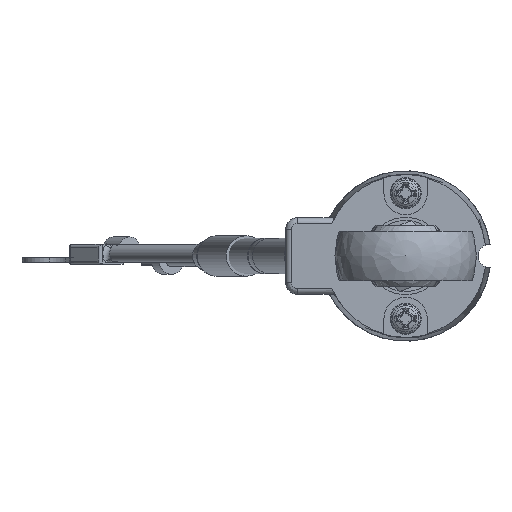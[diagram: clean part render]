
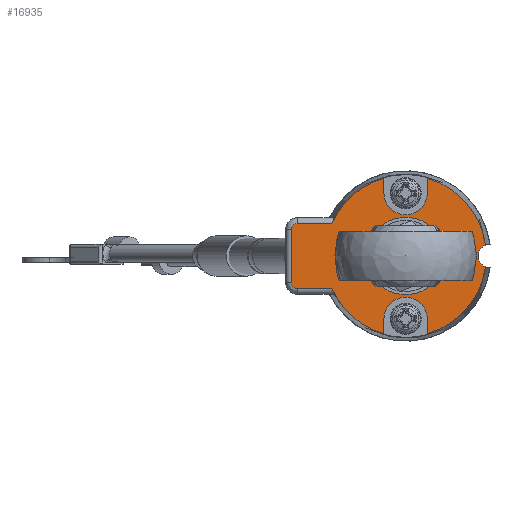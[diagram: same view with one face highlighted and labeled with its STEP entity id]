
A CAD part, left-side view. The second image highlights one B-rep face of the part: STEP entity #16935.
In plain terms, the highlighted planar face has unit normal (-1, 0, 0).
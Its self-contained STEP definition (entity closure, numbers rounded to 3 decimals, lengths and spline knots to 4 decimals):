
#1690=ELLIPSE('',#18058,0.03,0.03);
#1691=ELLIPSE('',#18062,0.03,0.03);
#1706=FACE_BOUND('',#2909,.T.);
#1841=PLANE('',#18064);
#2139=FACE_OUTER_BOUND('',#2908,.T.);
#2908=EDGE_LOOP('',(#10745,#10746,#10747,#10748,#10749,#10750,#10751,#10752,
#10753,#10754,#10755,#10756,#10757,#10758,#10759,#10760));
#2909=EDGE_LOOP('',(#10761));
#3724=LINE('',#23348,#4346);
#3725=LINE('',#23380,#4347);
#3726=LINE('',#23423,#4348);
#3727=LINE('',#23430,#4349);
#3728=LINE('',#23434,#4350);
#3729=LINE('',#23442,#4351);
#3730=LINE('',#23445,#4352);
#4346=VECTOR('',#19789,0.3937);
#4347=VECTOR('',#19798,0.3937);
#4348=VECTOR('',#19805,0.3937);
#4349=VECTOR('',#19812,0.3937);
#4350=VECTOR('',#19815,0.3937);
#4351=VECTOR('',#19822,0.3937);
#4352=VECTOR('',#19825,0.3937);
#4940=CIRCLE('',#18027,0.105);
#4953=CIRCLE('',#18065,0.41);
#4954=CIRCLE('',#18066,0.41);
#4955=CIRCLE('',#18067,0.11);
#4956=CIRCLE('',#18068,0.41);
#4957=CIRCLE('',#18069,0.06);
#4958=CIRCLE('',#18070,0.41);
#4959=CIRCLE('',#18071,0.11);
#5599=VERTEX_POINT('',#23189);
#5622=VERTEX_POINT('',#23332);
#5623=VERTEX_POINT('',#23334);
#5624=VERTEX_POINT('',#23374);
#5625=VERTEX_POINT('',#23378);
#5626=VERTEX_POINT('',#23406);
#5627=VERTEX_POINT('',#23410);
#5628=VERTEX_POINT('',#23425);
#5629=VERTEX_POINT('',#23427);
#5630=VERTEX_POINT('',#23429);
#5631=VERTEX_POINT('',#23431);
#5632=VERTEX_POINT('',#23433);
#5633=VERTEX_POINT('',#23435);
#5634=VERTEX_POINT('',#23437);
#5635=VERTEX_POINT('',#23439);
#5636=VERTEX_POINT('',#23441);
#5637=VERTEX_POINT('',#23443);
#7726=EDGE_CURVE('',#5599,#5599,#4940,.T.);
#7764=EDGE_CURVE('',#5623,#5622,#3724,.T.);
#7766=EDGE_CURVE('',#5622,#5624,#1690,.T.);
#7768=EDGE_CURVE('',#5624,#5625,#3725,.T.);
#7770=EDGE_CURVE('',#5625,#5626,#1691,.T.);
#7772=EDGE_CURVE('',#5626,#5627,#3726,.T.);
#7773=EDGE_CURVE('',#5627,#5628,#4953,.T.);
#7774=EDGE_CURVE('',#5629,#5623,#4954,.T.);
#7775=EDGE_CURVE('',#5629,#5630,#3727,.T.);
#7776=EDGE_CURVE('',#5630,#5631,#4955,.T.);
#7777=EDGE_CURVE('',#5631,#5632,#3728,.T.);
#7778=EDGE_CURVE('',#5633,#5632,#4956,.T.);
#7779=EDGE_CURVE('',#5633,#5634,#4957,.T.);
#7780=EDGE_CURVE('',#5635,#5634,#4958,.T.);
#7781=EDGE_CURVE('',#5635,#5636,#3729,.T.);
#7782=EDGE_CURVE('',#5636,#5637,#4959,.T.);
#7783=EDGE_CURVE('',#5637,#5628,#3730,.T.);
#10745=ORIENTED_EDGE('',*,*,#7773,.F.);
#10746=ORIENTED_EDGE('',*,*,#7772,.F.);
#10747=ORIENTED_EDGE('',*,*,#7770,.F.);
#10748=ORIENTED_EDGE('',*,*,#7768,.F.);
#10749=ORIENTED_EDGE('',*,*,#7766,.F.);
#10750=ORIENTED_EDGE('',*,*,#7764,.F.);
#10751=ORIENTED_EDGE('',*,*,#7774,.F.);
#10752=ORIENTED_EDGE('',*,*,#7775,.T.);
#10753=ORIENTED_EDGE('',*,*,#7776,.T.);
#10754=ORIENTED_EDGE('',*,*,#7777,.T.);
#10755=ORIENTED_EDGE('',*,*,#7778,.F.);
#10756=ORIENTED_EDGE('',*,*,#7779,.T.);
#10757=ORIENTED_EDGE('',*,*,#7780,.F.);
#10758=ORIENTED_EDGE('',*,*,#7781,.T.);
#10759=ORIENTED_EDGE('',*,*,#7782,.T.);
#10760=ORIENTED_EDGE('',*,*,#7783,.T.);
#10761=ORIENTED_EDGE('',*,*,#7726,.T.);
#16935=ADVANCED_FACE('',(#2139,#1706),#1841,.T.);
#18027=AXIS2_PLACEMENT_3D('',#23190,#19714,#19715);
#18058=AXIS2_PLACEMENT_3D('',#23376,#19792,#19793);
#18062=AXIS2_PLACEMENT_3D('',#23408,#19801,#19802);
#18064=AXIS2_PLACEMENT_3D('',#23424,#19806,#19807);
#18065=AXIS2_PLACEMENT_3D('',#23426,#19808,#19809);
#18066=AXIS2_PLACEMENT_3D('',#23428,#19810,#19811);
#18067=AXIS2_PLACEMENT_3D('',#23432,#19813,#19814);
#18068=AXIS2_PLACEMENT_3D('',#23436,#19816,#19817);
#18069=AXIS2_PLACEMENT_3D('',#23438,#19818,#19819);
#18070=AXIS2_PLACEMENT_3D('',#23440,#19820,#19821);
#18071=AXIS2_PLACEMENT_3D('',#23444,#19823,#19824);
#19714=DIRECTION('center_axis',(1.,0.,0.));
#19715=DIRECTION('ref_axis',(0.,0.,1.));
#19789=DIRECTION('',(0.,1.,0.));
#19792=DIRECTION('center_axis',(1.,0.,0.));
#19793=DIRECTION('ref_axis',(0.,0.,
-1.));
#19798=DIRECTION('',(0.,0.,1.));
#19801=DIRECTION('center_axis',(1.,0.,0.));
#19802=DIRECTION('ref_axis',(0.,0.,
1.));
#19805=DIRECTION('',(0.,-1.,0.));
#19806=DIRECTION('center_axis',(-1.,0.,0.));
#19807=DIRECTION('ref_axis',(0.,0.,1.));
#19808=DIRECTION('center_axis',(1.,0.,0.));
#19809=DIRECTION('ref_axis',(0.,1.,0.));
#19810=DIRECTION('center_axis',(1.,0.,0.));
#19811=DIRECTION('ref_axis',(0.,1.,0.));
#19812=DIRECTION('',(0.,0.,1.));
#19813=DIRECTION('center_axis',(1.,0.,0.));
#19814=DIRECTION('ref_axis',(0.,-1.,0.));
#19815=DIRECTION('',(0.,0.,-1.));
#19816=DIRECTION('center_axis',(1.,0.,0.));
#19817=DIRECTION('ref_axis',(0.,1.,0.));
#19818=DIRECTION('center_axis',(1.,0.,0.));
#19819=DIRECTION('ref_axis',(0.,0.,-1.));
#19820=DIRECTION('center_axis',(1.,0.,0.));
#19821=DIRECTION('ref_axis',(0.,1.,0.));
#19822=DIRECTION('',(0.,0.,-1.));
#19823=DIRECTION('center_axis',(1.,0.,0.));
#19824=DIRECTION('ref_axis',(0.,1.,0.));
#19825=DIRECTION('',(0.,0.,1.));
#23189=CARTESIAN_POINT('',(-0.2209,0.,-0.105));
#23190=CARTESIAN_POINT('Origin',(-0.2209,0.,0.));
#23332=CARTESIAN_POINT('',(-0.2209,0.55,-0.1649));
#23334=CARTESIAN_POINT('',(-0.2209,0.3754,-0.1649));
#23348=CARTESIAN_POINT('',(-0.2209,0.2825,-0.1649));
#23374=CARTESIAN_POINT('',(-0.2209,0.58,-0.1349));
#23376=CARTESIAN_POINT('Origin',(-0.2209,0.55,-0.1349));
#23378=CARTESIAN_POINT('',(-0.2209,0.58,0.1349));
#23380=CARTESIAN_POINT('',(-0.2209,0.58,-0.044));
#23406=CARTESIAN_POINT('',(-0.2209,0.55,0.1649));
#23408=CARTESIAN_POINT('Origin',(-0.2209,0.55,0.1349));
#23410=CARTESIAN_POINT('',(-0.2209,0.3754,0.1649));
#23423=CARTESIAN_POINT('',(-0.2209,0.2825,0.1649));
#23424=CARTESIAN_POINT('Origin',(-0.2209,0.205,0.));
#23425=CARTESIAN_POINT('',(-0.2209,0.11,0.395));
#23426=CARTESIAN_POINT('Origin',(-0.2209,0.,0.));
#23427=CARTESIAN_POINT('',(-0.2209,0.11,-0.395));
#23428=CARTESIAN_POINT('Origin',(-0.2209,0.,0.));
#23429=CARTESIAN_POINT('',(-0.2209,0.11,-0.3193));
#23430=CARTESIAN_POINT('',(-0.2209,0.11,-0.1596));
#23431=CARTESIAN_POINT('',(-0.2209,-0.11,-0.3193));
#23432=CARTESIAN_POINT('Origin',(-0.2209,0.,-0.3193));
#23433=CARTESIAN_POINT('',(-0.2209,-0.11,-0.395));
#23434=CARTESIAN_POINT('',(-0.2209,-0.11,-0.2243));
#23435=CARTESIAN_POINT('',(-0.2209,-0.4062,-0.0556));
#23436=CARTESIAN_POINT('Origin',(-0.2209,0.,0.));
#23437=CARTESIAN_POINT('',(-0.2209,-0.4062,0.0556));
#23438=CARTESIAN_POINT('Origin',(-0.2209,-0.4289,0.));
#23439=CARTESIAN_POINT('',(-0.2209,-0.11,0.395));
#23440=CARTESIAN_POINT('Origin',(-0.2209,0.,0.));
#23441=CARTESIAN_POINT('',(-0.2209,-0.11,0.3193));
#23442=CARTESIAN_POINT('',(-0.2209,-0.11,0.1596));
#23443=CARTESIAN_POINT('',(-0.2209,0.11,0.3193));
#23444=CARTESIAN_POINT('Origin',(-0.2209,0.,0.3193));
#23445=CARTESIAN_POINT('',(-0.2209,0.11,0.2243));
